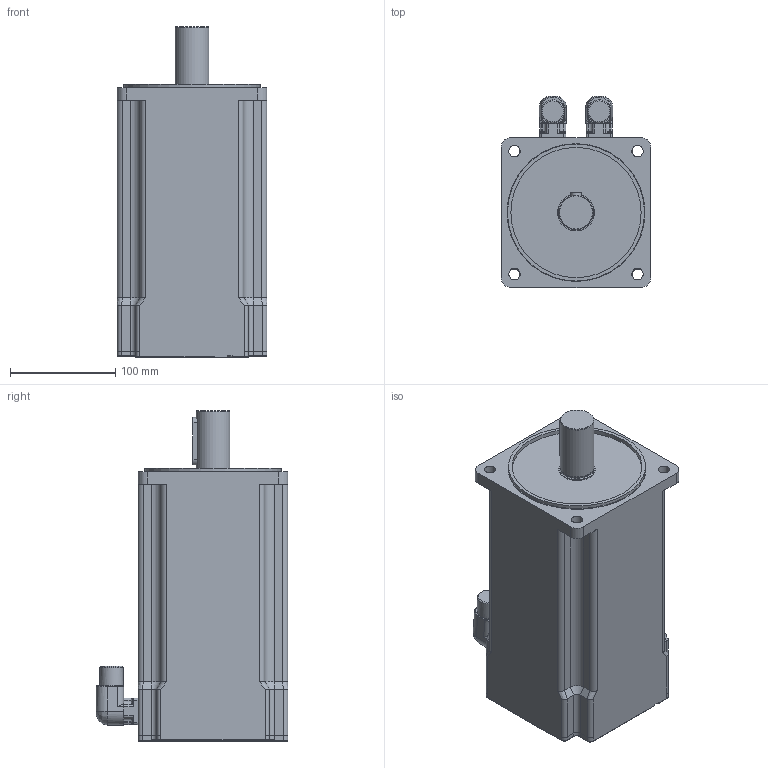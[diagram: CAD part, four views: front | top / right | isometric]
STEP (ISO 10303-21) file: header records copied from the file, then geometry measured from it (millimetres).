
FILE_DESCRIPTION((''),'2;1');
FILE_NAME('C:\Autodesk Vault\AUTODESK_VAULT\CAD\000-FERTIG Motors\BM140\_Gesamtbaugruppen\Step\Standard\31.10.2012_P1\AM8063-xx00-xxxx_31.10.2012.stp','2012-11-05T09:19:16',('andreaslu'),(''),'Autodesk Inventor 2012','Autodesk Inventor 2012','');
FILE_SCHEMA(('CONFIG_CONTROL_DESIGN'));
Length unit declared in the file: millimetre
Products named in the file (4): AM8063-xx00-xxxx_21.05; BM140-VM-00; Intercontec-BEDC110NN00000101000; DIN 6885-A10x8x45
Assembly tree (4 placements, depth 2):
  AM8063-xx00-xxxx_21.05
    BM140-VM-00
    Intercontec-BEDC110NN00000101000  x2
    DIN 6885-A10x8x45
Bounding box: 142 x 181.8 x 314 mm (x, y, z)
Volume: 4841494.8 mm3; surface area: 204585.9 mm2
Topology: 4 solids, 4 shells, 455 faces, 1123 edges, 704 vertices
Faces by surface type: plane 233, cylinder 138, bspline 65, torus 17, cone 2
Full cylindrical faces by diameter (mm): 4 x4, 4.8 x8, 11 x4, 20.1 x4, 22 x2, 31.4 x1, 32 x1, 35 x1, 123.636 x1, 130 x1
Entity records: 11716 total; most frequent: CARTESIAN_POINT 3048, ORIENTED_EDGE 1766, DIRECTION 1701, EDGE_CURVE 883, VERTEX_POINT 576, AXIS2_PLACEMENT_3D 575, VECTOR 551, LINE 551
